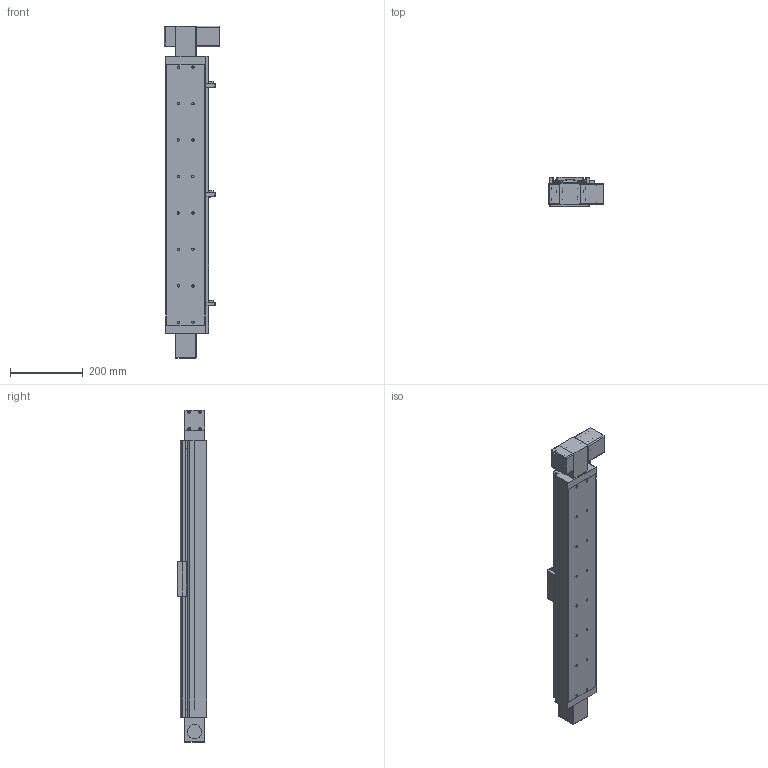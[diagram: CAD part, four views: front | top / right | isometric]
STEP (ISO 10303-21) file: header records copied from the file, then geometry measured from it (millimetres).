
FILE_DESCRIPTION((''),'2;1');
FILE_NAME('E:\uia actuator\UIA actuator 3d- 2015\Belt drive actuator\UIA110BR12(15)DC\UIA110BR12(15)DC-STEP FILE\UIA110BR12(15) stp file 13May16\UIA110BR12(15)DC-600-M23-P13-C10-S.stp','2016-05-13T15:48:05',('h029'),(''),'Autodesk Inventor 11','Autodesk Inventor 11','');
FILE_SCHEMA(('AUTOMOTIVE_DESIGN { 1 0 10303 214 1 1 1 1 }'));
Length unit declared in the file: millimetre
Products named in the file (11): UIA110BR12(15)DC-600; UIA110BR12(15)DC-600-body; UIA110BR12(15)DC-600-Sensor rail; UIA110B-Carriage; UIA110B- Sensor Flag; UIA110B-Cover; SOH-32C; SOH-32C-3; SOH-32C-1; SOH-32C-2; Motor mount
Assembly tree (10 placements, depth 3):
  UIA110BR12(15)DC-600
    UIA110BR12(15)DC-600-body
    UIA110BR12(15)DC-600-Sensor rail
    UIA110B-Carriage
    UIA110B- Sensor Flag
    UIA110B-Cover
    SOH-32C
      SOH-32C-3
      SOH-32C-1
      SOH-32C-2
    Motor mount
Bounding box: 152 x 81 x 911 mm (x, y, z)
Volume: 2965331.5 mm3; surface area: 809738.6 mm2
Topology: 9 solids, 13 shells, 740 faces, 2074 edges, 1332 vertices
Faces by surface type: plane 463, cylinder 187, cone 42, bspline 40, sphere 8
Full cylindrical faces by diameter (mm): 2.459 x4, 3 x2, 3.242 x8, 3.5 x4, 4 x10, 4.5 x4, 4.917 x8, 5 x2, 6.35 x1, 6.5 x16, 7.5 x4, 10 x3, 11 x16, 12 x1, 20 x2, 32 x3, 37 x1, 38.1 x1, 39 x2, 43.5 x1, 46 x2
Entity records: 24538 total; most frequent: CARTESIAN_POINT 6081, DIRECTION 3771, ORIENTED_EDGE 3606, EDGE_CURVE 1803, AXIS2_PLACEMENT_3D 1288, VERTEX_POINT 1240, VECTOR 1195, LINE 1195
